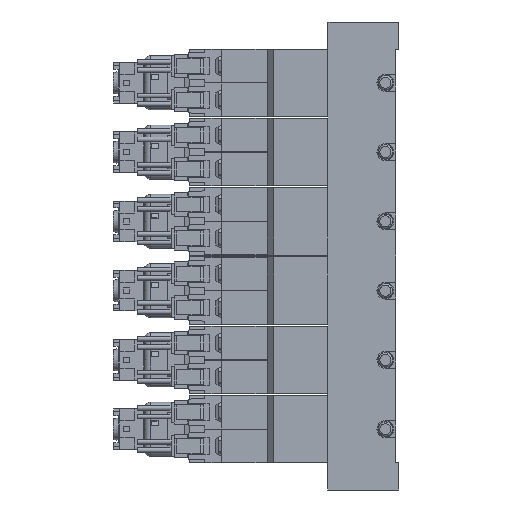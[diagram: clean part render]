
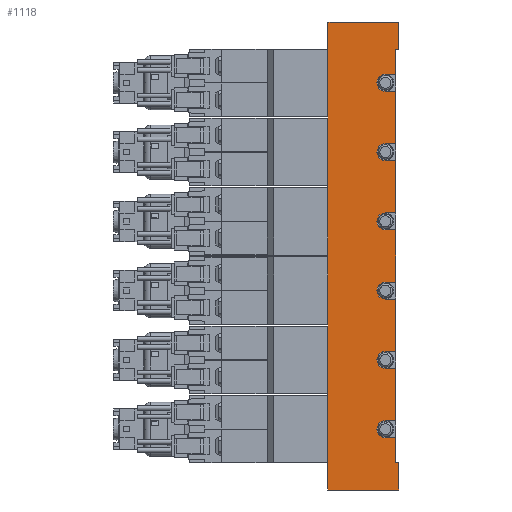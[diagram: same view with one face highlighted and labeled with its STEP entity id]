
A CAD part, left-side view. The second image highlights one B-rep face of the part: STEP entity #1118.
In plain terms, the highlighted planar face has unit normal (-1, 0, 0) as drawn and (1, 0, 0) by its records, which use the part's own axes.
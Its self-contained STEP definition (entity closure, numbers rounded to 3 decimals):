
#1118=ADVANCED_FACE('',(#4449),#4450,.F.);
#4449=FACE_OUTER_BOUND('',#11123,.T.);
#4450=PLANE('',#11124);
#11123=EDGE_LOOP('',(#20070,#20071,#20072,#20073,#20074,#20075,#20076,#20077,#20078,#20079,#20080,#20081,#20082,#20083,#20084,#20085,#20086,#20087,#20088,#20089,#20090,#20091,#20092,#20093,#20094,#20095,#20096,#20097,#20098,#20099,#20100,#20101));
#11124=AXIS2_PLACEMENT_3D('',#20102,#20103,#20104);
#20070=ORIENTED_EDGE('',*,*,#40934,.T.);
#20071=ORIENTED_EDGE('',*,*,#40935,.T.);
#20072=ORIENTED_EDGE('',*,*,#40936,.F.);
#20073=ORIENTED_EDGE('',*,*,#40937,.F.);
#20074=ORIENTED_EDGE('',*,*,#40938,.T.);
#20075=ORIENTED_EDGE('',*,*,#40939,.T.);
#20076=ORIENTED_EDGE('',*,*,#40940,.T.);
#20077=ORIENTED_EDGE('',*,*,#40905,.F.);
#20078=ORIENTED_EDGE('',*,*,#40941,.F.);
#20079=ORIENTED_EDGE('',*,*,#40942,.F.);
#20080=ORIENTED_EDGE('',*,*,#40943,.T.);
#20081=ORIENTED_EDGE('',*,*,#40944,.F.);
#20082=ORIENTED_EDGE('',*,*,#40945,.F.);
#20083=ORIENTED_EDGE('',*,*,#40946,.F.);
#20084=ORIENTED_EDGE('',*,*,#40947,.T.);
#20085=ORIENTED_EDGE('',*,*,#40917,.F.);
#20086=ORIENTED_EDGE('',*,*,#40948,.F.);
#20087=ORIENTED_EDGE('',*,*,#40949,.F.);
#20088=ORIENTED_EDGE('',*,*,#40950,.T.);
#20089=ORIENTED_EDGE('',*,*,#40951,.F.);
#20090=ORIENTED_EDGE('',*,*,#40952,.F.);
#20091=ORIENTED_EDGE('',*,*,#40953,.F.);
#20092=ORIENTED_EDGE('',*,*,#40954,.T.);
#20093=ORIENTED_EDGE('',*,*,#40955,.F.);
#20094=ORIENTED_EDGE('',*,*,#40956,.F.);
#20095=ORIENTED_EDGE('',*,*,#40957,.F.);
#20096=ORIENTED_EDGE('',*,*,#40958,.T.);
#20097=ORIENTED_EDGE('',*,*,#40959,.F.);
#20098=ORIENTED_EDGE('',*,*,#40960,.F.);
#20099=ORIENTED_EDGE('',*,*,#40961,.F.);
#20100=ORIENTED_EDGE('',*,*,#40962,.T.);
#20101=ORIENTED_EDGE('',*,*,#40963,.T.);
#20102=CARTESIAN_POINT('',(17.5,1.0,69.25));
#20103=DIRECTION('',(-1.0,0.0,0.0));
#20104=DIRECTION('',(0.0,0.0,1.0));
#40905=EDGE_CURVE('',#49544,#49545,#49546,.T.);
#40917=EDGE_CURVE('',#49567,#49568,#49569,.T.);
#40934=EDGE_CURVE('',#49600,#49601,#49602,.T.);
#40935=EDGE_CURVE('',#49601,#49603,#49604,.T.);
#40936=EDGE_CURVE('',#49605,#49603,#49606,.T.);
#40937=EDGE_CURVE('',#49607,#49605,#49608,.T.);
#40938=EDGE_CURVE('',#49607,#49609,#49610,.T.);
#40939=EDGE_CURVE('',#49609,#49611,#49612,.T.);
#40940=EDGE_CURVE('',#49611,#49545,#49613,.T.);
#40941=EDGE_CURVE('',#49614,#49544,#49615,.T.);
#40942=EDGE_CURVE('',#49616,#49614,#49617,.T.);
#40943=EDGE_CURVE('',#49616,#49618,#49619,.T.);
#40944=EDGE_CURVE('',#49620,#49618,#49621,.T.);
#40945=EDGE_CURVE('',#49622,#49620,#49623,.T.);
#40946=EDGE_CURVE('',#49624,#49622,#49625,.T.);
#40947=EDGE_CURVE('',#49624,#49568,#49626,.T.);
#40948=EDGE_CURVE('',#49627,#49567,#49628,.T.);
#40949=EDGE_CURVE('',#49629,#49627,#49630,.T.);
#40950=EDGE_CURVE('',#49629,#49631,#49632,.T.);
#40951=EDGE_CURVE('',#49633,#49631,#49634,.T.);
#40952=EDGE_CURVE('',#49635,#49633,#49636,.T.);
#40953=EDGE_CURVE('',#49637,#49635,#49638,.T.);
#40954=EDGE_CURVE('',#49637,#49639,#49640,.T.);
#40955=EDGE_CURVE('',#49641,#49639,#49642,.T.);
#40956=EDGE_CURVE('',#49643,#49641,#49644,.T.);
#40957=EDGE_CURVE('',#49645,#49643,#49646,.T.);
#40958=EDGE_CURVE('',#49645,#49647,#49648,.T.);
#40959=EDGE_CURVE('',#49649,#49647,#49650,.T.);
#40960=EDGE_CURVE('',#49651,#49649,#49652,.T.);
#40961=EDGE_CURVE('',#49653,#49651,#49654,.T.);
#40962=EDGE_CURVE('',#49653,#49655,#49656,.T.);
#40963=EDGE_CURVE('',#49655,#49600,#49657,.T.);
#49544=VERTEX_POINT('',#62688);
#49545=VERTEX_POINT('',#62689);
#49546=LINE('',#62690,#62691);
#49567=VERTEX_POINT('',#62716);
#49568=VERTEX_POINT('',#62717);
#49569=LINE('',#62718,#62719);
#49600=VERTEX_POINT('',#62759);
#49601=VERTEX_POINT('',#62760);
#49602=LINE('',#62761,#62762);
#49603=VERTEX_POINT('',#62763);
#49604=LINE('',#62764,#62765);
#49605=VERTEX_POINT('',#62766);
#49606=LINE('',#62767,#62768);
#49607=VERTEX_POINT('',#62769);
#49608=LINE('',#62770,#62771);
#49609=VERTEX_POINT('',#62772);
#49610=LINE('',#62773,#62774);
#49611=VERTEX_POINT('',#62775);
#49612=LINE('',#62776,#62777);
#49613=LINE('',#62778,#62779);
#49614=VERTEX_POINT('',#62780);
#49615=CIRCLE('',#62781,2.5);
#49616=VERTEX_POINT('',#62782);
#49617=LINE('',#62783,#62784);
#49618=VERTEX_POINT('',#62785);
#49619=LINE('',#62786,#62787);
#49620=VERTEX_POINT('',#62788);
#49621=LINE('',#62789,#62790);
#49622=VERTEX_POINT('',#62791);
#49623=CIRCLE('',#62792,2.5);
#49624=VERTEX_POINT('',#62793);
#49625=LINE('',#62794,#62795);
#49626=LINE('',#62796,#62797);
#49627=VERTEX_POINT('',#62798);
#49628=CIRCLE('',#62799,2.5);
#49629=VERTEX_POINT('',#62800);
#49630=LINE('',#62801,#62802);
#49631=VERTEX_POINT('',#62803);
#49632=LINE('',#62804,#62805);
#49633=VERTEX_POINT('',#62806);
#49634=LINE('',#62807,#62808);
#49635=VERTEX_POINT('',#62809);
#49636=CIRCLE('',#62810,2.5);
#49637=VERTEX_POINT('',#62811);
#49638=LINE('',#62812,#62813);
#49639=VERTEX_POINT('',#62814);
#49640=LINE('',#62815,#62816);
#49641=VERTEX_POINT('',#62817);
#49642=LINE('',#62818,#62819);
#49643=VERTEX_POINT('',#62820);
#49644=CIRCLE('',#62821,2.5);
#49645=VERTEX_POINT('',#62822);
#49646=LINE('',#62823,#62824);
#49647=VERTEX_POINT('',#62825);
#49648=LINE('',#62826,#62827);
#49649=VERTEX_POINT('',#62828);
#49650=LINE('',#62829,#62830);
#49651=VERTEX_POINT('',#62831);
#49652=CIRCLE('',#62832,2.5);
#49653=VERTEX_POINT('',#62833);
#49654=LINE('',#62834,#62835);
#49655=VERTEX_POINT('',#62836);
#49656=LINE('',#62837,#62838);
#49657=LINE('',#62839,#62840);
#62688=CARTESIAN_POINT('',(17.5,4.0,53.75));
#62689=CARTESIAN_POINT('',(17.5,1.0,53.75));
#62690=CARTESIAN_POINT('',(17.5,1.0,53.75));
#62691=VECTOR('',#79844,1.0);
#62716=CARTESIAN_POINT('',(17.5,4.0,12.75));
#62717=CARTESIAN_POINT('',(17.5,1.0,12.75));
#62718=CARTESIAN_POINT('',(17.5,1.0,12.75));
#62719=VECTOR('',#79870,1.0);
#62759=CARTESIAN_POINT('',(17.5,0.0,-61.25));
#62760=CARTESIAN_POINT('',(17.5,0.0,-69.25));
#62761=CARTESIAN_POINT('',(17.5,0.0,-61.25));
#62762=VECTOR('',#79901,1.0);
#62763=CARTESIAN_POINT('',(17.5,21.0,-69.25));
#62764=CARTESIAN_POINT('',(17.5,1.0,-69.25));
#62765=VECTOR('',#79902,1.0);
#62766=CARTESIAN_POINT('',(17.5,21.0,69.25));
#62767=CARTESIAN_POINT('',(17.5,21.0,69.25));
#62768=VECTOR('',#79903,1.0);
#62769=CARTESIAN_POINT('',(17.5,0.0,69.25));
#62770=CARTESIAN_POINT('',(17.5,1.0,69.25));
#62771=VECTOR('',#79904,1.0);
#62772=CARTESIAN_POINT('',(17.5,0.0,61.25));
#62773=CARTESIAN_POINT('',(17.5,0.0,69.25));
#62774=VECTOR('',#79905,1.0);
#62775=CARTESIAN_POINT('',(17.5,1.0,61.25));
#62776=CARTESIAN_POINT('',(17.5,0.0,61.25));
#62777=VECTOR('',#79906,1.0);
#62778=CARTESIAN_POINT('',(17.5,1.0,69.25));
#62779=VECTOR('',#79907,1.0);
#62780=CARTESIAN_POINT('',(17.5,4.0,48.75));
#62781=AXIS2_PLACEMENT_3D('',#79908,#79909,#79910);
#62782=CARTESIAN_POINT('',(17.5,1.0,48.75));
#62783=CARTESIAN_POINT('',(17.5,1.0,48.75));
#62784=VECTOR('',#79911,1.0);
#62785=CARTESIAN_POINT('',(17.5,1.0,33.25));
#62786=CARTESIAN_POINT('',(17.5,1.0,69.25));
#62787=VECTOR('',#79912,1.0);
#62788=CARTESIAN_POINT('',(17.5,4.0,33.25));
#62789=CARTESIAN_POINT('',(17.5,1.0,33.25));
#62790=VECTOR('',#79913,1.0);
#62791=CARTESIAN_POINT('',(17.5,4.0,28.25));
#62792=AXIS2_PLACEMENT_3D('',#79914,#79915,#79916);
#62793=CARTESIAN_POINT('',(17.5,1.0,28.25));
#62794=CARTESIAN_POINT('',(17.5,1.0,28.25));
#62795=VECTOR('',#79917,1.0);
#62796=CARTESIAN_POINT('',(17.5,1.0,69.25));
#62797=VECTOR('',#79918,1.0);
#62798=CARTESIAN_POINT('',(17.5,4.0,7.75));
#62799=AXIS2_PLACEMENT_3D('',#79919,#79920,#79921);
#62800=CARTESIAN_POINT('',(17.5,1.0,7.75));
#62801=CARTESIAN_POINT('',(17.5,1.0,7.75));
#62802=VECTOR('',#79922,1.0);
#62803=CARTESIAN_POINT('',(17.5,1.0,-7.75));
#62804=CARTESIAN_POINT('',(17.5,1.0,69.25));
#62805=VECTOR('',#79923,1.0);
#62806=CARTESIAN_POINT('',(17.5,4.0,-7.75));
#62807=CARTESIAN_POINT('',(17.5,1.0,-7.75));
#62808=VECTOR('',#79924,1.0);
#62809=CARTESIAN_POINT('',(17.5,4.0,-12.75));
#62810=AXIS2_PLACEMENT_3D('',#79925,#79926,#79927);
#62811=CARTESIAN_POINT('',(17.5,1.0,-12.75));
#62812=CARTESIAN_POINT('',(17.5,1.0,-12.75));
#62813=VECTOR('',#79928,1.0);
#62814=CARTESIAN_POINT('',(17.5,1.0,-28.25));
#62815=CARTESIAN_POINT('',(17.5,1.0,69.25));
#62816=VECTOR('',#79929,1.0);
#62817=CARTESIAN_POINT('',(17.5,4.0,-28.25));
#62818=CARTESIAN_POINT('',(17.5,1.0,-28.25));
#62819=VECTOR('',#79930,1.0);
#62820=CARTESIAN_POINT('',(17.5,4.0,-33.25));
#62821=AXIS2_PLACEMENT_3D('',#79931,#79932,#79933);
#62822=CARTESIAN_POINT('',(17.5,1.0,-33.25));
#62823=CARTESIAN_POINT('',(17.5,1.0,-33.25));
#62824=VECTOR('',#79934,1.0);
#62825=CARTESIAN_POINT('',(17.5,1.0,-48.75));
#62826=CARTESIAN_POINT('',(17.5,1.0,69.25));
#62827=VECTOR('',#79935,1.0);
#62828=CARTESIAN_POINT('',(17.5,4.0,-48.75));
#62829=CARTESIAN_POINT('',(17.5,1.0,-48.75));
#62830=VECTOR('',#79936,1.0);
#62831=CARTESIAN_POINT('',(17.5,4.0,-53.75));
#62832=AXIS2_PLACEMENT_3D('',#79937,#79938,#79939);
#62833=CARTESIAN_POINT('',(17.5,1.0,-53.75));
#62834=CARTESIAN_POINT('',(17.5,1.0,-53.75));
#62835=VECTOR('',#79940,1.0);
#62836=CARTESIAN_POINT('',(17.5,1.0,-61.25));
#62837=CARTESIAN_POINT('',(17.5,1.0,69.25));
#62838=VECTOR('',#79941,1.0);
#62839=CARTESIAN_POINT('',(17.5,4.0,-61.25));
#62840=VECTOR('',#79942,1.0);
#79844=DIRECTION('',(0.0,-1.0,0.0));
#79870=DIRECTION('',(0.0,-1.0,0.0));
#79901=DIRECTION('',(0.0,0.0,-1.0));
#79902=DIRECTION('',(0.0,1.0,0.0));
#79903=DIRECTION('',(0.0,0.0,-1.0));
#79904=DIRECTION('',(0.0,1.0,0.0));
#79905=DIRECTION('',(0.0,0.0,-1.0));
#79906=DIRECTION('',(0.0,1.0,0.0));
#79907=DIRECTION('',(0.0,0.0,-1.0));
#79908=CARTESIAN_POINT('',(17.5,4.0,51.25));
#79909=DIRECTION('',(1.0,0.0,-0.0));
#79910=DIRECTION('',(0.0,0.0,1.0));
#79911=DIRECTION('',(0.0,1.0,0.0));
#79912=DIRECTION('',(0.0,0.0,-1.0));
#79913=DIRECTION('',(0.0,-1.0,0.0));
#79914=CARTESIAN_POINT('',(17.5,4.0,30.75));
#79915=DIRECTION('',(1.0,0.0,-0.0));
#79916=DIRECTION('',(0.0,0.0,1.0));
#79917=DIRECTION('',(0.0,1.0,0.0));
#79918=DIRECTION('',(0.0,0.0,-1.0));
#79919=CARTESIAN_POINT('',(17.5,4.0,10.25));
#79920=DIRECTION('',(1.0,0.0,-0.0));
#79921=DIRECTION('',(0.0,0.0,1.0));
#79922=DIRECTION('',(0.0,1.0,0.0));
#79923=DIRECTION('',(0.0,0.0,-1.0));
#79924=DIRECTION('',(0.0,-1.0,0.0));
#79925=CARTESIAN_POINT('',(17.5,4.0,-10.25));
#79926=DIRECTION('',(1.0,0.0,-0.0));
#79927=DIRECTION('',(0.0,0.0,1.0));
#79928=DIRECTION('',(0.0,1.0,0.0));
#79929=DIRECTION('',(0.0,0.0,-1.0));
#79930=DIRECTION('',(0.0,-1.0,0.0));
#79931=CARTESIAN_POINT('',(17.5,4.0,-30.75));
#79932=DIRECTION('',(1.0,0.0,-0.0));
#79933=DIRECTION('',(0.0,0.0,1.0));
#79934=DIRECTION('',(0.0,1.0,0.0));
#79935=DIRECTION('',(0.0,0.0,-1.0));
#79936=DIRECTION('',(0.0,-1.0,0.0));
#79937=CARTESIAN_POINT('',(17.5,4.0,-51.25));
#79938=DIRECTION('',(1.0,0.0,-0.0));
#79939=DIRECTION('',(0.0,0.0,1.0));
#79940=DIRECTION('',(0.0,1.0,0.0));
#79941=DIRECTION('',(0.0,0.0,-1.0));
#79942=DIRECTION('',(0.0,-1.0,0.0));
